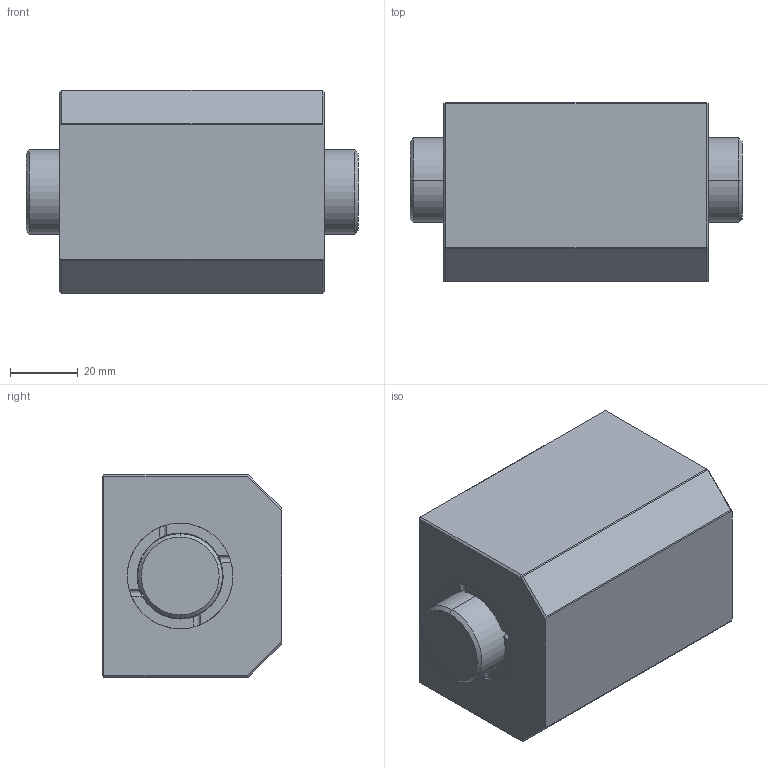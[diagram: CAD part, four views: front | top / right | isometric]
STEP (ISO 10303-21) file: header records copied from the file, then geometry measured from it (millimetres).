
FILE_DESCRIPTION (( 'STEP AP203' ), '1' );
FILE_NAME ('BNTR02510T3-C.STEP', '2020-06-18T01:44:59', ( '' ), ( '' ), 'SwSTEP 2.0', 'SolidWorks 2013', '' );
FILE_SCHEMA (( 'CONFIG_CONTROL_DESIGN' ));
Length unit declared in the file: millimetre
Products named in the file (1): BNTR02510T3-C
Bounding box: 98 x 53 x 60 mm (x, y, z)
Volume: 240569.9 mm3; surface area: 38305.4 mm2
Topology: 2 solids, 2 shells, 85 faces, 213 edges, 130 vertices
Faces by surface type: plane 37, cylinder 36, cone 12
Entity records: 2824 total; most frequent: CARTESIAN_POINT 773, DIRECTION 411, ORIENTED_EDGE 410, EDGE_CURVE 205, AXIS2_PLACEMENT_3D 152, VERTEX_POINT 130, LINE 107, VECTOR 107
